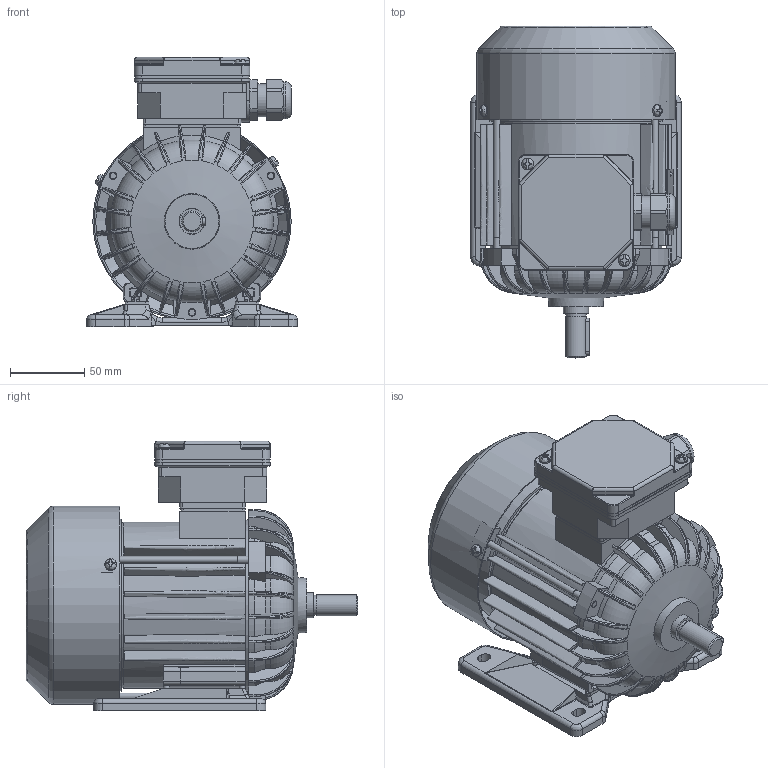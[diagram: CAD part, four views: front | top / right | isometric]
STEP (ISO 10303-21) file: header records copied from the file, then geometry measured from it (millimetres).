
FILE_DESCRIPTION( ( 'Unknown' ), '1' );
FILE_NAME( 'G:/Poczta Tk-1/STP/w.m.71/Sh71/Sh71-.A.stp', 'Unknown', ( 'K. Szlosek' ), ( 'BESEL S.A.' ), 'PSStep 17.0.49', 'Unknown', ' ' );
FILE_SCHEMA( ( 'AUTOMOTIVE_DESIGN { 1 0 10303 214 1 1 1 1 }' ) );
Length unit declared in the file: millimetre
Products named in the file (29): Assem1; K1-1194 Kadłub z zamkami Sh71-.B; K4-4122 Osłona przewietrznika Sh71-.A; K2-0860 Pokrywka skrzynki zaciskowej; K4-2320 Uszczelka nr 1 Sh71,80; K3-6688 Wał Standard Sh71-A; Nitokołek A 2x6; K3-5958 Tarcza łożyskowa P Sh71 (dla dł. A); K4-2820 Uszczelka nr 2 Sh71,80; Wkręt samogwintujący M4x16; K1-0448 Łapa Sh71-.. ; K2-1933 Tarcza łożyskowa N S(E,M)h71-; K3-3984 Przewietrznik Sh71; Wpust A5x5x25; Wkręt samogwintujący M4x10; Łożysko 6203; Śruba ściągająca E_M5x110; Tabliczka znamionowa 32x44; Dławnica M20x1,5; K2-0859 Podstawa skrzynki 6-cio zaciskowej
Assembly tree (34 placements, depth 2):
  Assem1
    K1-1194 Kadłub z zamkami Sh71-.B
    K4-4122 Osłona przewietrznika Sh71-.A
    K2-0860 Pokrywka skrzynki zaciskowej
    K4-2320 Uszczelka nr 1 Sh71,80
    K3-6688 Wał Standard Sh71-A
    Nitokołek A 2x6  x2
    K3-5958 Tarcza łożyskowa P Sh71 (dla dł. A)
    K4-2820 Uszczelka nr 2 Sh71,80
    Wkręt samogwintujący M4x16  x2
    K1-0448 Łapa Sh71-.. 
    K2-1933 Tarcza łożyskowa N S(E,M)h71-
    K3-3984 Przewietrznik Sh71
    Wpust A5x5x25
    Wkręt samogwintujący M4x10  x3
    Łożysko 6203
    Łożysko 6203
    Łożysko 6203
    Łożysko 6203
    Łożysko 6203
    Łożysko 6203
    Łożysko 6203
    Łożysko 6203
    Łożysko 6203
    Łożysko 6203
    Śruba ściągająca E_M5x110  x3
    Tabliczka znamionowa 32x44
    Dławnica M20x1,5
    K2-0859 Podstawa skrzynki 6-cio zaciskowej
Bounding box: 141.93 x 223.5 x 181.5 mm (x, y, z)
Volume: 610603.3 mm3; surface area: 395960.4 mm2
Topology: 34 solids, 42 shells, 2463 faces, 6733 edges, 4316 vertices
Faces by surface type: plane 1033, cylinder 707, bspline 359, torus 181, cone 157, sphere 26
Full cylindrical faces by diameter (mm): 2 x2, 2.4 x2, 3.7 x7, 3.8 x4, 4 x5, 4.2 x3, 4.5 x1, 4.6 x3, 4.8 x4, 5 x7, 5.5 x3, 5.8 x4, 7 x1, 8 x9, 13.6 x1, 14 x1, 15.9 x1, 16.1 x1, 16.5 x1, 16.6 x2, 17 x3, 17.4 x2, 18.376 x1, 18.38 x1, 20 x1, 22 x2, 22.3 x1, 22.5 x1, 22.7 x1, 23 x2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
Entity records: 138247 total; most frequent: CARTESIAN_POINT 68600, ORIENTED_EDGE 12160, DIRECTION 10797, EDGE_CURVE 6080, AXIS2_PLACEMENT_3D 4079, VERTEX_POINT 4036, EDGE_LOOP 2725, LINE 2639
